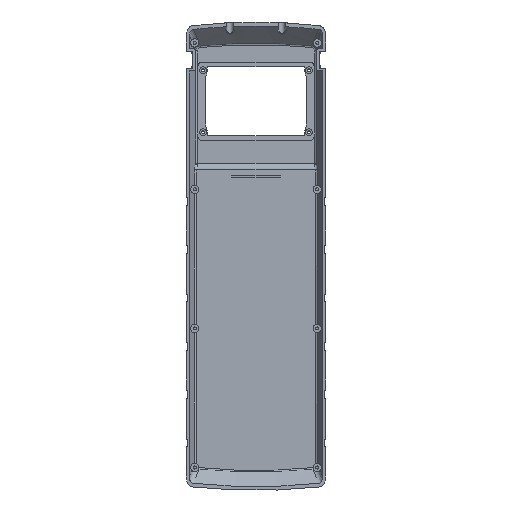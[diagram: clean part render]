
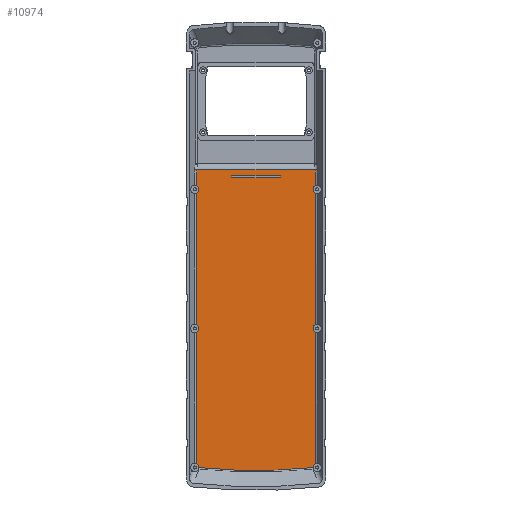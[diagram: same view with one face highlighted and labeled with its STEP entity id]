
A CAD part, front view. The second image highlights one B-rep face of the part: STEP entity #10974.
In plain terms, the highlighted planar face has unit normal (0, -1, 0).
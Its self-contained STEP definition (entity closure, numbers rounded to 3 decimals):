
#1103=LINE('',#18494,#1974);
#1107=LINE('',#18502,#1978);
#1110=LINE('',#18508,#1981);
#1113=LINE('',#18513,#1984);
#1196=LINE('',#19686,#2067);
#1197=LINE('',#19702,#2068);
#1199=LINE('',#19717,#2070);
#1201=LINE('',#19723,#2072);
#1205=LINE('',#19890,#2076);
#1207=LINE('',#19962,#2078);
#1208=LINE('',#20069,#2079);
#1974=VECTOR('',#15161,10.);
#1978=VECTOR('',#15167,10.);
#1981=VECTOR('',#15172,10.);
#1984=VECTOR('',#15177,10.);
#2067=VECTOR('',#15510,10.);
#2068=VECTOR('',#15513,10.);
#2070=VECTOR('',#15517,10.);
#2072=VECTOR('',#15523,10.);
#2076=VECTOR('',#15553,10.);
#2078=VECTOR('',#15575,10.);
#2079=VECTOR('',#15604,10.);
#2343=FACE_BOUND('',#3629,.T.);
#2945=FACE_OUTER_BOUND('',#3628,.T.);
#3628=EDGE_LOOP('',(#9910,#9911,#9912,#9913,#9914,#9915,#9916,#9917,#9918,
#9919,#9920,#9921,#9922,#9923,#9924,#9925));
#3629=EDGE_LOOP('',(#9926,#9927,#9928,#9929));
#4185=CIRCLE('',#12195,4.9);
#4186=CIRCLE('',#12198,4.9);
#4187=CIRCLE('',#12201,4.9);
#4194=CIRCLE('',#12221,2.892);
#4199=CIRCLE('',#12227,676.515);
#4201=CIRCLE('',#12229,2.892);
#4207=CIRCLE('',#12243,4.9);
#4208=CIRCLE('',#12244,4.9);
#4209=CIRCLE('',#12245,4.9);
#5101=VERTEX_POINT('',#18492);
#5102=VERTEX_POINT('',#18493);
#5105=VERTEX_POINT('',#18501);
#5107=VERTEX_POINT('',#18507);
#5213=VERTEX_POINT('',#19556);
#5214=VERTEX_POINT('',#19557);
#5217=VERTEX_POINT('',#19587);
#5218=VERTEX_POINT('',#19588);
#5222=VERTEX_POINT('',#19629);
#5223=VERTEX_POINT('',#19630);
#5226=VERTEX_POINT('',#19660);
#5227=VERTEX_POINT('',#19673);
#5228=VERTEX_POINT('',#19688);
#5229=VERTEX_POINT('',#19701);
#5231=VERTEX_POINT('',#19721);
#5236=VERTEX_POINT('',#19908);
#5239=VERTEX_POINT('',#19915);
#5241=VERTEX_POINT('',#19936);
#5242=VERTEX_POINT('',#19948);
#5243=VERTEX_POINT('',#19961);
#6587=EDGE_CURVE('',#5101,#5102,#1103,.T.);
#6591=EDGE_CURVE('',#5105,#5101,#1107,.T.);
#6594=EDGE_CURVE('',#5107,#5105,#1110,.T.);
#6597=EDGE_CURVE('',#5102,#5107,#1113,.T.);
#6774=EDGE_CURVE('',#5213,#5214,#4185,.T.);
#6778=EDGE_CURVE('',#5217,#5218,#4186,.T.);
#6783=EDGE_CURVE('',#5222,#5223,#4187,.T.);
#6789=EDGE_CURVE('',#5226,#5227,#1196,.T.);
#6791=EDGE_CURVE('',#5229,#5228,#1197,.T.);
#6794=EDGE_CURVE('',#5213,#5223,#1199,.T.);
#6797=EDGE_CURVE('',#5222,#5231,#1201,.T.);
#6812=EDGE_CURVE('',#5217,#5214,#1205,.T.);
#6814=EDGE_CURVE('',#5236,#5218,#4194,.T.);
#6819=EDGE_CURVE('',#5239,#5236,#4199,.T.);
#6822=EDGE_CURVE('',#5241,#5239,#4201,.T.);
#6824=EDGE_CURVE('',#5243,#5242,#1207,.T.);
#6835=EDGE_CURVE('',#5226,#5228,#4207,.T.);
#6836=EDGE_CURVE('',#5241,#5227,#4208,.T.);
#6837=EDGE_CURVE('',#5231,#5243,#1208,.T.);
#6838=EDGE_CURVE('',#5229,#5242,#4209,.T.);
#9910=ORIENTED_EDGE('',*,*,#6835,.F.);
#9911=ORIENTED_EDGE('',*,*,#6789,.T.);
#9912=ORIENTED_EDGE('',*,*,#6836,.F.);
#9913=ORIENTED_EDGE('',*,*,#6822,.T.);
#9914=ORIENTED_EDGE('',*,*,#6819,.T.);
#9915=ORIENTED_EDGE('',*,*,#6814,.T.);
#9916=ORIENTED_EDGE('',*,*,#6778,.F.);
#9917=ORIENTED_EDGE('',*,*,#6812,.T.);
#9918=ORIENTED_EDGE('',*,*,#6774,.F.);
#9919=ORIENTED_EDGE('',*,*,#6794,.T.);
#9920=ORIENTED_EDGE('',*,*,#6783,.F.);
#9921=ORIENTED_EDGE('',*,*,#6797,.T.);
#9922=ORIENTED_EDGE('',*,*,#6837,.T.);
#9923=ORIENTED_EDGE('',*,*,#6824,.T.);
#9924=ORIENTED_EDGE('',*,*,#6838,.F.);
#9925=ORIENTED_EDGE('',*,*,#6791,.T.);
#9926=ORIENTED_EDGE('',*,*,#6591,.T.);
#9927=ORIENTED_EDGE('',*,*,#6587,.T.);
#9928=ORIENTED_EDGE('',*,*,#6597,.T.);
#9929=ORIENTED_EDGE('',*,*,#6594,.T.);
#10371=PLANE('',#12242);
#10974=ADVANCED_FACE('',(#2945,#2343),#10371,.T.);
#12195=AXIS2_PLACEMENT_3D('',#19558,#15492,#15493);
#12198=AXIS2_PLACEMENT_3D('',#19589,#15498,#15499);
#12201=AXIS2_PLACEMENT_3D('',#19631,#15504,#15505);
#12221=AXIS2_PLACEMENT_3D('',#19909,#15555,#15556);
#12227=AXIS2_PLACEMENT_3D('',#19918,#15567,#15568);
#12229=AXIS2_PLACEMENT_3D('',#19946,#15571,#15572);
#12242=AXIS2_PLACEMENT_3D('',#20066,#15598,#15599);
#12243=AXIS2_PLACEMENT_3D('',#20067,#15600,#15601);
#12244=AXIS2_PLACEMENT_3D('',#20068,#15602,#15603);
#12245=AXIS2_PLACEMENT_3D('',#20070,#15605,#15606);
#15161=DIRECTION('',(1.,0.,0.));
#15167=DIRECTION('',(0.,0.,1.));
#15172=DIRECTION('',(-1.,0.,0.));
#15177=DIRECTION('',(0.,0.,-1.));
#15492=DIRECTION('center_axis',(0.,-1.,0.));
#15493=DIRECTION('ref_axis',(-1.,0.,0.));
#15498=DIRECTION('center_axis',(0.,-1.,0.));
#15499=DIRECTION('ref_axis',(-1.,0.,0.));
#15504=DIRECTION('center_axis',(0.,-1.,0.));
#15505=DIRECTION('ref_axis',(-1.,0.,0.));
#15510=DIRECTION('',(0.,0.,-1.));
#15513=DIRECTION('',(0.,0.,-1.));
#15517=DIRECTION('',(0.,0.,1.));
#15523=DIRECTION('',(0.,0.,1.));
#15553=DIRECTION('',(0.,0.,1.));
#15555=DIRECTION('center_axis',(0.,-1.,0.));
#15556=DIRECTION('ref_axis',(0.166,0.,-0.986));
#15567=DIRECTION('center_axis',(0.,-1.,0.));
#15568=DIRECTION('ref_axis',(0.,0.,-1.));
#15571=DIRECTION('center_axis',(0.,-1.,0.));
#15572=DIRECTION('ref_axis',(-0.099,0.,-0.995));
#15575=DIRECTION('',(0.,0.,-1.));
#15598=DIRECTION('center_axis',(0.,-1.,0.));
#15599=DIRECTION('ref_axis',(0.,0.,-1.));
#15600=DIRECTION('center_axis',(0.,-1.,0.));
#15601=DIRECTION('ref_axis',(1.,0.,0.));
#15602=DIRECTION('center_axis',(0.,-1.,0.));
#15603=DIRECTION('ref_axis',(1.,0.,0.));
#15604=DIRECTION('',(-1.,0.,0.));
#15605=DIRECTION('center_axis',(0.,-1.,0.));
#15606=DIRECTION('ref_axis',(1.,0.,0.));
#18492=CARTESIAN_POINT('',(-28.4,17.9,95.));
#18493=CARTESIAN_POINT('',(28.4,17.9,95.));
#18494=CARTESIAN_POINT('',(-14.2,17.9,95.));
#18501=CARTESIAN_POINT('',(-28.4,17.9,93.));
#18502=CARTESIAN_POINT('',(-28.4,17.9,-2.));
#18507=CARTESIAN_POINT('',(28.4,17.9,93.));
#18508=CARTESIAN_POINT('',(14.2,17.9,93.));
#18513=CARTESIAN_POINT('',(28.4,17.9,-1.));
#19556=CARTESIAN_POINT('',(70.155,17.9,-80.594));
#19557=CARTESIAN_POINT('',(70.155,17.9,-89.406));
#19558=CARTESIAN_POINT('Origin',(72.3,17.9,-85.));
#19587=CARTESIAN_POINT('',(70.155,17.9,-244.594));
#19588=CARTESIAN_POINT('',(67.402,17.9,-249.142));
#19589=CARTESIAN_POINT('Origin',(72.3,17.9,-249.));
#19629=CARTESIAN_POINT('',(70.155,17.9,83.406));
#19630=CARTESIAN_POINT('',(70.155,17.9,74.594));
#19631=CARTESIAN_POINT('Origin',(72.3,17.9,79.));
#19660=CARTESIAN_POINT('',(-70.155,17.9,-89.406));
#19673=CARTESIAN_POINT('',(-70.155,17.9,-244.594));
#19686=CARTESIAN_POINT('',(-70.155,17.9,-16.147));
#19688=CARTESIAN_POINT('',(-70.155,17.9,-80.594));
#19701=CARTESIAN_POINT('',(-70.155,17.9,74.594));
#19702=CARTESIAN_POINT('',(-70.155,17.9,-16.147));
#19717=CARTESIAN_POINT('',(70.155,17.9,51.648));
#19721=CARTESIAN_POINT('',(70.155,17.9,102.));
#19723=CARTESIAN_POINT('',(70.155,17.9,51.648));
#19890=CARTESIAN_POINT('',(70.155,17.9,51.648));
#19908=CARTESIAN_POINT('',(67.209,17.9,-249.168));
#19909=CARTESIAN_POINT('Origin',(66.922,17.9,-246.29));
#19915=CARTESIAN_POINT('',(-67.209,17.9,-249.168));
#19918=CARTESIAN_POINT('Origin',(0.,17.9,424.));
#19936=CARTESIAN_POINT('',(-67.402,17.9,-249.142));
#19946=CARTESIAN_POINT('Origin',(-66.922,17.9,-246.29));
#19948=CARTESIAN_POINT('',(-70.155,17.9,83.406));
#19961=CARTESIAN_POINT('',(-70.155,17.9,102.));
#19962=CARTESIAN_POINT('',(-70.155,17.9,-16.147));
#20066=CARTESIAN_POINT('Origin',(0.,17.9,-97.));
#20067=CARTESIAN_POINT('Origin',(-72.3,17.9,-85.));
#20068=CARTESIAN_POINT('Origin',(-72.3,17.9,-249.));
#20069=CARTESIAN_POINT('',(57.5,17.9,102.));
#20070=CARTESIAN_POINT('Origin',(-72.3,17.9,79.));
